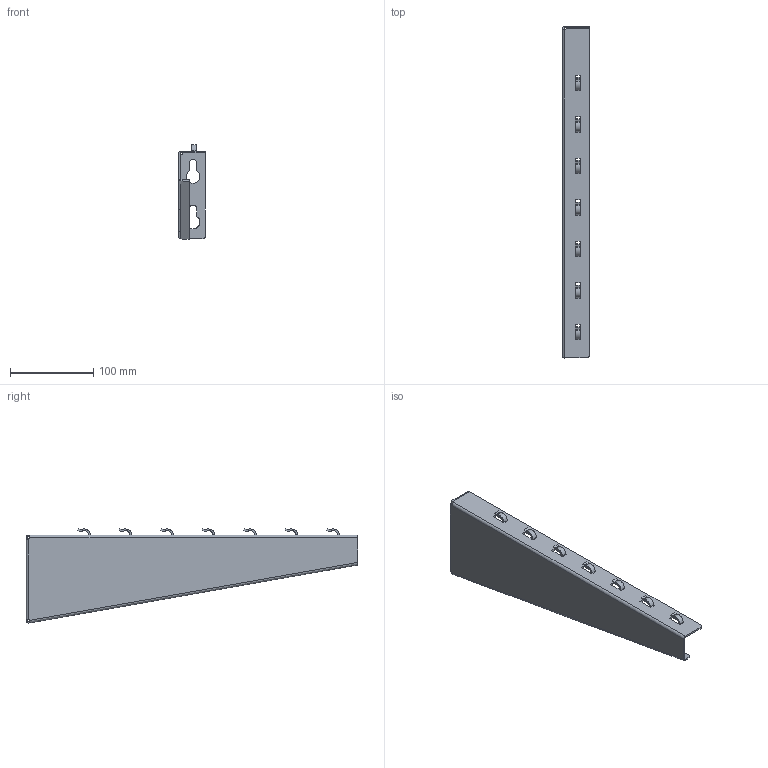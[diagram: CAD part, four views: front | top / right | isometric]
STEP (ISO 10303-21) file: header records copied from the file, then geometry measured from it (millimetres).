
FILE_DESCRIPTION(/* description */ (''),/* implementation_level */ '2;1');
FILE_NAME(/* name */ 'NZM400',/* time_stamp */ '2025-03-13T20:54:40+01:00',/* author */ (''),/* organization */ (''),/* preprocessor_version */ 'ST-DEVELOPER v16.5',/* originating_system */ '',/* authorisation */ '');
FILE_SCHEMA (('CONFIG_CONTROL_DESIGN'));
Length unit declared in the file: millimetre
Products named in the file (1): Document
Bounding box: 32.52 x 399.8 x 113.48 mm (x, y, z)
Volume: 79045.8 mm3; surface area: 96675.8 mm2
Topology: 1 solids, 8 shells, 171 faces, 462 edges, 300 vertices
Faces by surface type: plane 71, bspline 57, cylinder 43
Entity records: 5357 total; most frequent: CARTESIAN_POINT 2504, ORIENTED_EDGE 896, EDGE_CURVE 462, VERTEX_POINT 300, EDGE_LOOP 189, B_SPLINE_CURVE_WITH_KNOTS 185, ADVANCED_FACE 171, FACE_OUTER_BOUND 171
